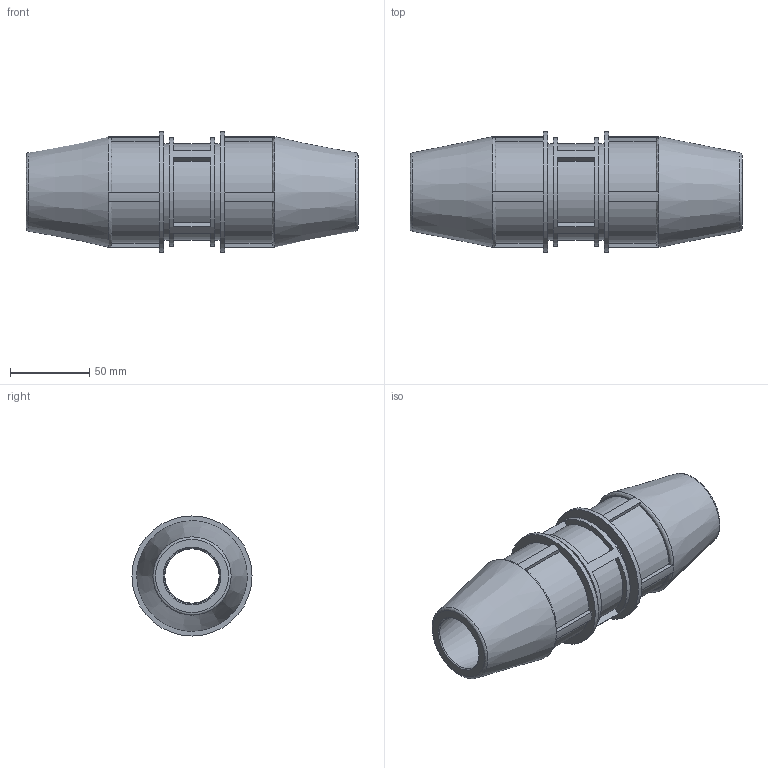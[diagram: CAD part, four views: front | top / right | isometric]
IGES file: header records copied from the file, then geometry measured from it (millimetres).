
Global section: file name: 176100031035_196100031035.ipt; native system: Autodesk Inventor 2015; preprocessor: unknown; author: KIM; date: 20180211.125759; units: millimetre
Bounding box: 210 x 76 x 76 mm (x, y, z)
Volume: 419799.9 mm3; surface area: 80425.7 mm2
Topology: 1 solids, 1 shells, 92 faces, 225 edges, 146 vertices
Faces by surface type: plane 50, cylinder 25, revolution 15, cone 2
Full cylindrical faces by diameter (mm): 60.8 x2, 68.4 x1, 76 x2
